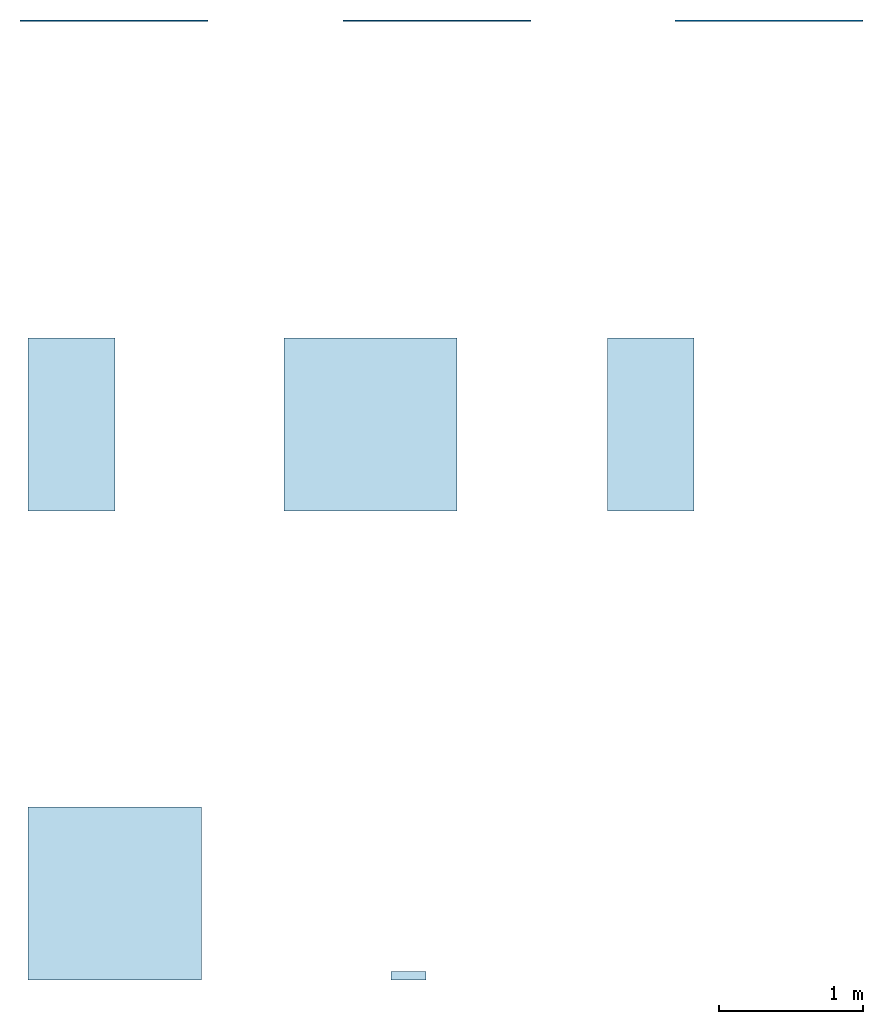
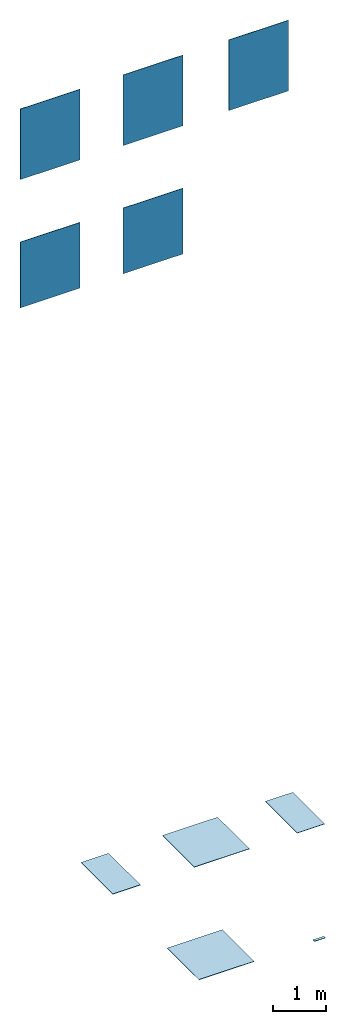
# One storey: 5 slabs, 5 walls.
"""IFC2X3 building model written with IfcOpenShell, lengths in millimetres."""

from ifc_helpers import new_model, entity, si_unit, converted_unit, derived_unit, direction, frame, frame_2d, origin, origin_2d_with_axis, place, context, subcontext, project, spatial, rectangle, extrude, material, layer, layer_set, layer_usage, type_object, element, save


model = new_model("IFC2X3")

# Units and contexts
model_context = context("Model", 3, precision=0.01, world=origin(), true_north=direction((6.123031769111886e-17, 1.0)))
body_context = subcontext(model_context, "Body", "Model", "MODEL_VIEW")
ifc_project = project(units=[si_unit("LENGTHUNIT", "METRE", prefix="MILLI"), si_unit("AREAUNIT", "SQUARE_METRE"), si_unit("VOLUMEUNIT", "CUBIC_METRE"), converted_unit("PLANEANGLEUNIT", "DEGREE", entity("IfcPlaneAngleMeasure", 0.017453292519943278), si_unit("PLANEANGLEUNIT", "RADIAN"), dimensions=[0, 0, 0, 0, 0, 0, 0]), si_unit("MASSUNIT", "GRAM", prefix="KILO"), derived_unit("MASSDENSITYUNIT", [(si_unit("MASSUNIT", "GRAM", prefix="KILO"), 1), (si_unit("LENGTHUNIT", "METRE"), -3)]), derived_unit("IONCONCENTRATIONUNIT", [(si_unit("MASSUNIT", "GRAM", prefix="KILO"), 1), (si_unit("LENGTHUNIT", "METRE"), -3)]), derived_unit("MOMENTOFINERTIAUNIT", [(si_unit("LENGTHUNIT", "METRE"), 4)]), si_unit("TIMEUNIT", "SECOND"), si_unit("FREQUENCYUNIT", "HERTZ"), si_unit("THERMODYNAMICTEMPERATUREUNIT", "DEGREE_CELSIUS"), derived_unit("THERMALTRANSMITTANCEUNIT", [(si_unit("MASSUNIT", "GRAM", prefix="KILO"), 1), (si_unit("THERMODYNAMICTEMPERATUREUNIT", "KELVIN"), -1), (si_unit("TIMEUNIT", "SECOND"), -3)]), derived_unit("THERMALCONDUCTANCEUNIT", [(si_unit("MASSUNIT", "GRAM", prefix="KILO"), 1), (si_unit("THERMODYNAMICTEMPERATUREUNIT", "KELVIN"), -1), (si_unit("TIMEUNIT", "SECOND"), -3), (si_unit("LENGTHUNIT", "METRE"), 1)]), derived_unit("VOLUMETRICFLOWRATEUNIT", [(si_unit("LENGTHUNIT", "METRE", prefix="DECI"), 3), (si_unit("TIMEUNIT", "SECOND"), -1)]), derived_unit("MASSFLOWRATEUNIT", [(si_unit("MASSUNIT", "GRAM", prefix="KILO"), 1), (si_unit("TIMEUNIT", "SECOND"), -1)]), derived_unit("ROTATIONALFREQUENCYUNIT", [(si_unit("TIMEUNIT", "SECOND"), -1)]), si_unit("ELECTRICCURRENTUNIT", "AMPERE"), si_unit("ELECTRICVOLTAGEUNIT", "VOLT"), si_unit("POWERUNIT", "WATT"), si_unit("FORCEUNIT", "NEWTON", prefix="KILO"), si_unit("ILLUMINANCEUNIT", "LUX"), si_unit("LUMINOUSFLUXUNIT", "LUMEN"), si_unit("LUMINOUSINTENSITYUNIT", "CANDELA"), si_unit("ENERGYUNIT", "JOULE"), derived_unit("USERDEFINED", [(si_unit("MASSUNIT", "GRAM", prefix="KILO"), -1), (si_unit("LENGTHUNIT", "METRE"), -2), (si_unit("TIMEUNIT", "SECOND"), 3), (si_unit("LUMINOUSFLUXUNIT", "LUMEN"), 1)]), derived_unit("USERDEFINED", [(si_unit("MASSUNIT", "GRAM", prefix="KILO"), 1), (si_unit("TIMEUNIT", "SECOND"), -3), (si_unit("LENGTHUNIT", "METRE"), 3), (si_unit("ELECTRICCURRENTUNIT", "AMPERE"), -2)]), derived_unit("SOUNDPOWERUNIT", [(si_unit("MASSUNIT", "GRAM", prefix="KILO"), 1), (si_unit("TIMEUNIT", "SECOND"), -3), (si_unit("LENGTHUNIT", "METRE"), 2)]), derived_unit("SOUNDPRESSUREUNIT", [(si_unit("MASSUNIT", "GRAM", prefix="KILO"), 1), (si_unit("LENGTHUNIT", "METRE"), -1), (si_unit("TIMEUNIT", "SECOND"), -2)]), derived_unit("LINEARVELOCITYUNIT", [(si_unit("LENGTHUNIT", "METRE"), 1), (si_unit("TIMEUNIT", "SECOND"), -1)]), si_unit("PRESSUREUNIT", "PASCAL"), derived_unit("USERDEFINED", [(si_unit("MASSUNIT", "GRAM", prefix="KILO"), 1), (si_unit("LENGTHUNIT", "METRE"), -2), (si_unit("TIMEUNIT", "SECOND"), -2)]), derived_unit("LINEARFORCEUNIT", [(si_unit("MASSUNIT", "GRAM", prefix="KILO"), 1), (si_unit("TIMEUNIT", "SECOND"), -2)]), derived_unit("PLANARFORCEUNIT", [(si_unit("MASSUNIT", "GRAM", prefix="KILO"), 1), (si_unit("LENGTHUNIT", "METRE"), -1), (si_unit("TIMEUNIT", "SECOND"), -2)]), derived_unit("SPECIFICHEATCAPACITYUNIT", [(si_unit("THERMODYNAMICTEMPERATUREUNIT", "KELVIN"), -1), (si_unit("LENGTHUNIT", "METRE"), 2), (si_unit("TIMEUNIT", "SECOND"), -2)]), derived_unit("HEATFLUXDENSITYUNIT", [(si_unit("MASSUNIT", "GRAM", prefix="KILO"), 1), (si_unit("TIMEUNIT", "SECOND"), -3)]), derived_unit("HEATINGVALUEUNIT", [(si_unit("LENGTHUNIT", "METRE"), 2), (si_unit("TIMEUNIT", "SECOND"), -2)]), derived_unit("VAPORPERMEABILITYUNIT", [(si_unit("LENGTHUNIT", "METRE"), -1), (si_unit("TIMEUNIT", "SECOND"), 1)]), derived_unit("DYNAMICVISCOSITYUNIT", [(si_unit("MASSUNIT", "GRAM", prefix="KILO"), 1), (si_unit("TIMEUNIT", "SECOND"), -1), (si_unit("LENGTHUNIT", "METRE"), -1)]), derived_unit("THERMALEXPANSIONCOEFFICIENTUNIT", [(si_unit("THERMODYNAMICTEMPERATUREUNIT", "KELVIN"), -1)]), derived_unit("MODULUSOFELASTICITYUNIT", [(si_unit("MASSUNIT", "GRAM", prefix="KILO"), 1), (si_unit("LENGTHUNIT", "METRE"), -1), (si_unit("TIMEUNIT", "SECOND"), -2)]), derived_unit("ISOTHERMALMOISTURECAPACITYUNIT", [(si_unit("MASSUNIT", "GRAM", prefix="KILO"), -1), (si_unit("LENGTHUNIT", "METRE"), 3)]), derived_unit("MOISTUREDIFFUSIVITYUNIT", [(si_unit("TIMEUNIT", "SECOND"), -1), (si_unit("LENGTHUNIT", "METRE"), 2)]), derived_unit("MASSPERLENGTHUNIT", [(si_unit("MASSUNIT", "GRAM", prefix="KILO"), 1), (si_unit("LENGTHUNIT", "METRE"), -1)]), derived_unit("THERMALRESISTANCEUNIT", [(si_unit("MASSUNIT", "GRAM", prefix="KILO"), -1), (si_unit("TIMEUNIT", "SECOND"), 3), (si_unit("THERMODYNAMICTEMPERATUREUNIT", "KELVIN"), 1)]), derived_unit("ACCELERATIONUNIT", [(si_unit("LENGTHUNIT", "METRE"), 1), (si_unit("TIMEUNIT", "SECOND"), -2)]), derived_unit("ANGULARVELOCITYUNIT", [(si_unit("TIMEUNIT", "SECOND"), -1), (si_unit("PLANEANGLEUNIT", "RADIAN"), 1)]), derived_unit("LINEARSTIFFNESSUNIT", [(si_unit("MASSUNIT", "GRAM", prefix="KILO"), 1), (si_unit("TIMEUNIT", "SECOND"), -2)]), derived_unit("WARPINGCONSTANTUNIT", [(si_unit("LENGTHUNIT", "METRE"), 6)]), derived_unit("LINEARMOMENTUNIT", [(si_unit("MASSUNIT", "GRAM", prefix="KILO"), 1), (si_unit("LENGTHUNIT", "METRE"), 1), (si_unit("TIMEUNIT", "SECOND"), -2)]), derived_unit("TORQUEUNIT", [(si_unit("MASSUNIT", "GRAM", prefix="KILO"), 1), (si_unit("LENGTHUNIT", "METRE"), 2), (si_unit("TIMEUNIT", "SECOND"), -2)])], contexts=[model_context])

# Site, building, storey
site_placement = place(None, origin())
site = spatial("IfcSite", under=ifc_project, at=site_placement, Name="Default", CompositionType="ELEMENT")
building_placement = place(site_placement, origin())
building = spatial("IfcBuilding", under=site, at=building_placement, CompositionType="ELEMENT")
storey_placement = place(building_placement, origin())
storey = spatial("IfcBuildingStorey", under=building, at=storey_placement, Name="Level 0", CompositionType="ELEMENT", Elevation=0.0)

# Slabs
ifc_material_1 = material(Name="Cera-Luce-Cerasilk-60x120 RA34")
ifc_layer_1 = layer(ifc_material_1, 9.0)
ifc_material_2 = material(Name="<Unnamed>")
ifc_layer_2 = layer(ifc_material_2, 1.0)
ifc_layer_set_1 = layer_set([ifc_layer_1, ifc_layer_2], Name="Floor:Floor_Tiles_Refin-Cera-Luce-Cerasilk_60x120_RA34")
ifc_layer_usage_1 = layer_usage(ifc_layer_set_1, "AXIS3", "POSITIVE", 0.0)
slab_type_1 = type_object("IfcSlabType", Name="Floor:Floor_Tiles_Refin-Cera-Luce-Cerasilk_60x120_RA34", PredefinedType="FLOOR", material=ifc_layer_set_1)
slab_1_placement = place(storey_placement, origin())
element("IfcSlab", 1, at=slab_1_placement, inside=storey, type_object=slab_type_1, material=ifc_layer_usage_1, Name="Floor:Floor_Tiles_Refin-Cera-Luce-Cerasilk_60x120_RA34", ObjectType="Floor:Floor_Tiles_Refin-Cera-Luce-Cerasilk_60x120_RA34", PredefinedType="FLOOR", context=body_context, shape_type="SweptSolid", body=[
    extrude(rectangle(XDim=1200.0, YDim=600.0, at=origin_2d_with_axis()), frame((6274.3752061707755, 5338.419206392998, 0.0), z_axis=(0.0, 0.0, -1.0), x_axis=(0.0, 1.0, 0.0)), (0.0, 0.0, 1.0), 10.0),
])
ifc_material_3 = material(Name="Cera-Luce-Cerasilk-120x120 RA31")
ifc_layer_3 = layer(ifc_material_3, 9.0)
ifc_layer_4 = layer(ifc_material_2, 1.0)
ifc_layer_set_2 = layer_set([ifc_layer_3, ifc_layer_4], Name="Floor:Floor_Tiles_Refin-Cera-Luce-Cerasilk_120x120_RA31")
ifc_layer_usage_2 = layer_usage(ifc_layer_set_2, "AXIS3", "POSITIVE", 0.0)
slab_type_2 = type_object("IfcSlabType", Name="Floor:Floor_Tiles_Refin-Cera-Luce-Cerasilk_120x120_RA31", PredefinedType="FLOOR", material=ifc_layer_set_2)
slab_2_placement = place(storey_placement, origin())
element("IfcSlab", 2, at=slab_2_placement, inside=storey, type_object=slab_type_2, material=ifc_layer_usage_2, Name="Floor:Floor_Tiles_Refin-Cera-Luce-Cerasilk_120x120_RA31", ObjectType="Floor:Floor_Tiles_Refin-Cera-Luce-Cerasilk_120x120_RA31", PredefinedType="FLOOR", context=body_context, shape_type="SweptSolid", body=[
    extrude(rectangle(XDim=1200.0, YDim=1200.0, at=origin_2d_with_axis()), frame((8347.392405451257, 5338.419206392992, 0.0), z_axis=(0.0, 0.0, -1.0), x_axis=(0.0, 1.0, 0.0)), (0.0, 0.0, 1.0), 10.0),
])
ifc_material_4 = material(Name="Cera-Luce-Matt-Pro-60x120 RD56")
ifc_layer_5 = layer(ifc_material_4, 9.0)
ifc_layer_6 = layer(ifc_material_2, 1.0)
ifc_layer_set_3 = layer_set([ifc_layer_5, ifc_layer_6], Name="Floor:Floor_Tiles_Refin-Cera-Luce-Matt-Pro_60x120_RD56")
ifc_layer_usage_3 = layer_usage(ifc_layer_set_3, "AXIS3", "POSITIVE", 0.0)
slab_type_3 = type_object("IfcSlabType", Name="Floor:Floor_Tiles_Refin-Cera-Luce-Matt-Pro_60x120_RD56", PredefinedType="FLOOR", material=ifc_layer_set_3)
slab_3_placement = place(storey_placement, origin())
element("IfcSlab", 3, at=slab_3_placement, inside=storey, type_object=slab_type_3, material=ifc_layer_usage_3, Name="Floor:Floor_Tiles_Refin-Cera-Luce-Matt-Pro_60x120_RD56", ObjectType="Floor:Floor_Tiles_Refin-Cera-Luce-Matt-Pro_60x120_RD56", PredefinedType="FLOOR", context=body_context, shape_type="SweptSolid", body=[
    extrude(rectangle(XDim=1200.0, YDim=600.0, at=frame_2d((0.0, -1.0800249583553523e-12), x_axis=(1.0, 0.0))), frame((10287.39240545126, 5338.419206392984, 0.0), z_axis=(0.0, 0.0, -1.0), x_axis=(0.0, 1.0, 0.0)), (0.0, 0.0, 1.0), 10.0),
])
ifc_material_5 = material(Name="Cera-Luce-Matt-Pro-120x120 RD53")
ifc_layer_7 = layer(ifc_material_5, 9.0)
ifc_layer_8 = layer(ifc_material_2, 1.0)
ifc_layer_set_4 = layer_set([ifc_layer_7, ifc_layer_8], Name="Floor:Floor_Tiles_Refin-Cera-Luce-Matt-Pro_120x120_RD53")
ifc_layer_usage_4 = layer_usage(ifc_layer_set_4, "AXIS3", "POSITIVE", 0.0)
slab_type_4 = type_object("IfcSlabType", Name="Floor:Floor_Tiles_Refin-Cera-Luce-Matt-Pro_120x120_RD53", PredefinedType="FLOOR", material=ifc_layer_set_4)
slab_4_placement = place(storey_placement, origin())
element("IfcSlab", 4, at=slab_4_placement, inside=storey, type_object=slab_type_4, material=ifc_layer_usage_4, Name="Floor:Floor_Tiles_Refin-Cera-Luce-Matt-Pro_120x120_RD53", ObjectType="Floor:Floor_Tiles_Refin-Cera-Luce-Matt-Pro_120x120_RD53", PredefinedType="FLOOR", context=body_context, shape_type="SweptSolid", body=[
    extrude(rectangle(XDim=1200.0, YDim=1200.0, at=origin_2d_with_axis()), frame((6574.375206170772, 2089.462374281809, 0.0), z_axis=(0.0, 0.0, -1.0), x_axis=(0.0, 1.0, 0.0)), (0.0, 0.0, 1.0), 10.0),
])
ifc_material_6 = material(Name="Cera-Wax-Luce-6x24 RC65")
ifc_layer_9 = layer(ifc_material_6, 8.5)
ifc_layer_10 = layer(ifc_material_2, 1.0)
ifc_layer_set_5 = layer_set([ifc_layer_9, ifc_layer_10], Name="Floor:Floor_Tiles_Refin-Cera-Wax-Luce_6x24_RC65")
ifc_layer_usage_5 = layer_usage(ifc_layer_set_5, "AXIS3", "POSITIVE", 0.0)
slab_type_5 = type_object("IfcSlabType", Name="Floor:Floor_Tiles_Refin-Cera-Wax-Luce_6x24_RC65", PredefinedType="FLOOR", material=ifc_layer_set_5)
slab_5_placement = place(storey_placement, origin())
element("IfcSlab", 5, at=slab_5_placement, inside=storey, type_object=slab_type_5, material=ifc_layer_usage_5, Name="Floor:Floor_Tiles_Refin-Cera-Wax-Luce_6x24_RC65", ObjectType="Floor:Floor_Tiles_Refin-Cera-Wax-Luce_6x24_RC65", PredefinedType="FLOOR", context=body_context, shape_type="SweptSolid", body=[
    extrude(rectangle(XDim=59.99999999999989, YDim=239.9999999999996, at=frame_2d((0.0, -1.0871303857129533e-12), x_axis=(1.0, 0.0))), frame((8609.955111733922, 1519.4623742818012, 0.0), z_axis=(0.0, 0.0, -1.0), x_axis=(0.0, 1.0, 0.0)), (0.0, 0.0, 1.0), 9.5),
])

# Walls
ifc_layer_11 = layer(ifc_material_2, 1.0)
ifc_layer_12 = layer(ifc_material_1, 9.0)
ifc_layer_set_6 = layer_set([ifc_layer_11, ifc_layer_12], Name="Basic Wall:Wall_Tiles_Refin-Cera-Luce-Cerasilk_60x120_RA34")
ifc_layer_usage_6 = layer_usage(ifc_layer_set_6, "AXIS2", "NEGATIVE", 5.000000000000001)
wall_type_1 = type_object("IfcWallType", Name="Basic Wall:Wall_Tiles_Refin-Cera-Luce-Cerasilk_60x120_RA34", PredefinedType="STANDARD", material=ifc_layer_set_6)
wall_1_placement = place(storey_placement, frame((5917.375206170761, 8137.383863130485, 14403.726734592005)))
element("IfcWallStandardCase", 6, at=wall_1_placement, inside=storey, type_object=wall_type_1, material=ifc_layer_usage_6, Name="Basic Wall:Wall_Tiles_Refin-Cera-Luce-Cerasilk_60x120_RA34", ObjectType="Basic Wall:Wall_Tiles_Refin-Cera-Luce-Cerasilk_60x120_RA34", context=body_context, shape_type="SweptSolid", body=[
    extrude(rectangle(XDim=1300.0, YDim=9.999999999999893, at=frame_2d((650.0, 7.638334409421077e-14), x_axis=(-1.0, 0.0))), origin(), (0.0, 0.0, 1.0), 1625.692044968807),
])
ifc_layer_13 = layer(ifc_material_2, 1.0)
ifc_layer_14 = layer(ifc_material_3, 9.0)
ifc_layer_set_7 = layer_set([ifc_layer_13, ifc_layer_14], Name="Basic Wall:Wall_Tiles_Refin-Cera-Luce-Cerasilk_120x120_RA31")
ifc_layer_usage_7 = layer_usage(ifc_layer_set_7, "AXIS2", "NEGATIVE", 5.000000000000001)
wall_type_2 = type_object("IfcWallType", Name="Basic Wall:Wall_Tiles_Refin-Cera-Luce-Cerasilk_120x120_RA31", PredefinedType="STANDARD", material=ifc_layer_set_7)
wall_2_placement = place(storey_placement, frame((8157.375206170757, 8137.38386313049, 14403.726734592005)))
element("IfcWallStandardCase", 7, at=wall_2_placement, inside=storey, type_object=wall_type_2, material=ifc_layer_usage_7, Name="Basic Wall:Wall_Tiles_Refin-Cera-Luce-Cerasilk_120x120_RA31", ObjectType="Basic Wall:Wall_Tiles_Refin-Cera-Luce-Cerasilk_120x120_RA31", context=body_context, shape_type="SweptSolid", body=[
    extrude(rectangle(XDim=1300.0, YDim=9.999999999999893, at=frame_2d((650.0, 7.638334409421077e-14), x_axis=(-1.0, 0.0))), origin(), (0.0, 0.0, 1.0), 1625.692044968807),
])
ifc_layer_15 = layer(ifc_material_2, 1.0)
ifc_layer_16 = layer(ifc_material_4, 9.0)
ifc_layer_set_8 = layer_set([ifc_layer_15, ifc_layer_16], Name="Basic Wall:Wall_Tiles_Refin-Cera-Luce-Matt-Pro_60x120_RD56")
ifc_layer_usage_8 = layer_usage(ifc_layer_set_8, "AXIS2", "NEGATIVE", 5.000000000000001)
wall_type_3 = type_object("IfcWallType", Name="Basic Wall:Wall_Tiles_Refin-Cera-Luce-Matt-Pro_60x120_RD56", PredefinedType="STANDARD", material=ifc_layer_set_8)
wall_3_placement = place(storey_placement, frame((10457.37520617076, 8137.383863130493, 14403.726734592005)))
element("IfcWallStandardCase", 8, at=wall_3_placement, inside=storey, type_object=wall_type_3, material=ifc_layer_usage_8, Name="Basic Wall:Wall_Tiles_Refin-Cera-Luce-Matt-Pro_60x120_RD56", ObjectType="Basic Wall:Wall_Tiles_Refin-Cera-Luce-Matt-Pro_60x120_RD56", context=body_context, shape_type="SweptSolid", body=[
    extrude(rectangle(XDim=1300.0000000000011, YDim=9.999999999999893, at=frame_2d((650.0000000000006, 7.638334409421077e-14), x_axis=(-1.0, 0.0))), origin(), (0.0, 0.0, 1.0), 1625.692044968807),
])
ifc_layer_17 = layer(ifc_material_2, 1.0)
ifc_layer_18 = layer(ifc_material_5, 9.0)
ifc_layer_set_9 = layer_set([ifc_layer_17, ifc_layer_18], Name="Basic Wall:Wall_Tiles_Refin-Cera-Luce-Matt-Pro_120x120_RD53")
ifc_layer_usage_9 = layer_usage(ifc_layer_set_9, "AXIS2", "POSITIVE", -5.000000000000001)
wall_type_4 = type_object("IfcWallType", Name="Basic Wall:Wall_Tiles_Refin-Cera-Luce-Matt-Pro_120x120_RD53", PredefinedType="STANDARD", material=ifc_layer_set_9)
wall_4_placement = place(storey_placement, frame((7217.375206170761, 8137.383863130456, 11452.543626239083), z_axis=(0.0, 0.0, 1.0), x_axis=(-1.0, 0.0, 0.0)))
element("IfcWallStandardCase", 9, at=wall_4_placement, inside=storey, type_object=wall_type_4, material=ifc_layer_usage_9, Name="Basic Wall:Wall_Tiles_Refin-Cera-Luce-Matt-Pro_120x120_RD53", ObjectType="Basic Wall:Wall_Tiles_Refin-Cera-Luce-Matt-Pro_120x120_RD53", context=body_context, shape_type="SweptSolid", body=[
    extrude(rectangle(XDim=1299.999999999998, YDim=9.999999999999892, at=frame_2d((649.999999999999, 0.0), x_axis=(-1.0, 0.0))), origin(), (0.0, 0.0, 1.0), 1513.1985565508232),
])
ifc_layer_19 = layer(ifc_material_2, 1.0)
ifc_layer_20 = layer(ifc_material_6, 8.5)
ifc_layer_set_10 = layer_set([ifc_layer_19, ifc_layer_20], Name="Basic Wall:Wall_Tiles_Refin-Cera-Wax-Luce_6x24_RC65")
ifc_layer_usage_10 = layer_usage(ifc_layer_set_10, "AXIS2", "NEGATIVE", 4.750000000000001)
wall_type_5 = type_object("IfcWallType", Name="Basic Wall:Wall_Tiles_Refin-Cera-Wax-Luce_6x24_RC65", PredefinedType="STANDARD", material=ifc_layer_set_10)
wall_5_placement = place(storey_placement, frame((8157.375206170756, 8137.383863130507, 11452.543626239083)))
element("IfcWallStandardCase", 10, at=wall_5_placement, inside=storey, type_object=wall_type_5, material=ifc_layer_usage_10, Name="Basic Wall:Wall_Tiles_Refin-Cera-Wax-Luce_6x24_RC65", ObjectType="Basic Wall:Wall_Tiles_Refin-Cera-Wax-Luce_6x24_RC65", context=body_context, shape_type="SweptSolid", body=[
    extrude(rectangle(XDim=1300.0000000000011, YDim=9.500000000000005, at=frame_2d((650.0000000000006, 0.0), x_axis=(-1.0, 0.0))), origin(), (0.0, 0.0, 1.0), 1513.1985565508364),
])

save(model, "model.ifc")
